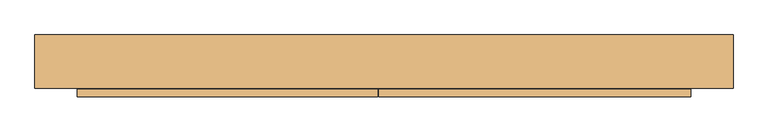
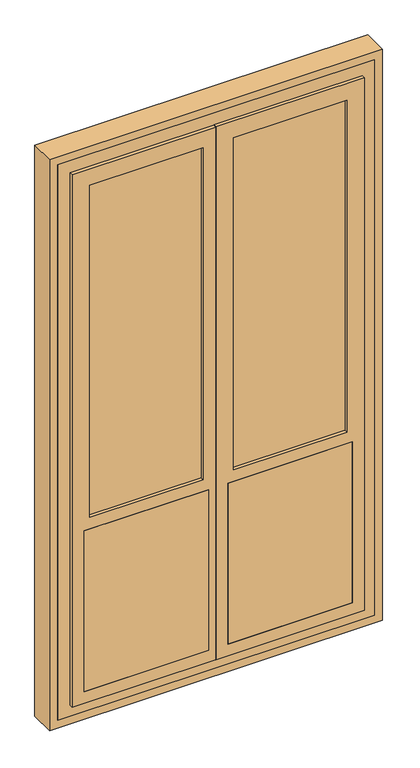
"""IFC4 building model written with IfcOpenShell, lengths in millimetres: door geometry, Балконная дверь 2-Распашная - Сдвоенные переплеты с остеклением - 11214-2003 : БД СП Д1 2175-1174-94 ГОСТ 11214-2003."""

from ifc_helpers import new_model, si_unit, frame, origin, place, context, project, spatial, polyline, outline, extrude, faceted_brep, source, transform, mapped, element, save


def door_428ffb38(model_context):
    return source(origin(), model_context, "Body", "SolidModel", [
        faceted_brep([(587.0, 305.0, 130.0), (587.0, 211.0, 130.0), (-587.0, 211.0, 130.0), (-587.0, 305.0, 130.0), (587.0, 211.0, 2305.0), (587.0, 305.0, 2305.0), (-587.0, 211.0, 2305.0), (534.0, 211.0, 2252.0), (534.0, 211.0, 183.0), (-534.0, 211.0, 183.0), (-534.0, 211.0, 2252.0), (-587.0, 305.0, 2305.0), (-506.0, 305.0, 2224.0), (-506.0, 305.0, 185.7205953), (506.0, 305.0, 185.7205953), (506.0, 305.0, 2224.0), (-506.0, 285.0, 2224.0), (-506.0, 285.0, 193.0), (506.0, 285.0, 193.0), (506.0, 285.0, 2224.0), (534.0, 255.0, 2252.0), (534.0, 255.0, 183.0), (-534.0, 255.0, 183.0), (-534.0, 255.0, 2252.0), (524.0, 255.0, 2242.0), (524.0, 255.0, 193.0), (-524.0, 255.0, 193.0), (-524.0, 255.0, 2242.0), (524.0, 285.0, 2242.0), (524.0, 285.0, 193.0), (-524.0, 285.0, 193.0), (-524.0, 285.0, 2242.0)], [[[0, 1, 2, 3]], [[4, 1, 0, 5]], [[2, 1, 4, 6], [7, 8, 9, 10]], [[2, 6, 11, 3]], [[0, 3, 11, 5], [12, 13, 14, 15]], [[12, 16, 17, 13]], [[14, 13, 17, 18]], [[19, 15, 14, 18]], [[7, 20, 21, 8]], [[9, 8, 21, 22]], [[22, 23, 10, 9]], [[20, 23, 22, 21], [24, 25, 26, 27]], [[24, 28, 29, 25]], [[26, 25, 29, 18, 17, 30]], [[31, 27, 26, 30]], [[28, 31, 30, 17, 16, 19, 18, 29]], [[5, 11, 6, 4]], [[7, 10, 23, 20]], [[24, 27, 31, 28]], [[12, 15, 19, 16]]]),
        extrude(outline(polyline([(100.0, -617.0), (100.0, 617.0), (2335.0, 617.0), (2335.0, -617.0), (100.0, -617.0)]), holes=[polyline([(2305.0, -587.0), (2305.0, 587.0), (130.0, 587.0), (130.0, -587.0), (2305.0, -587.0)])]), frame((0.0, 211.0, 0.0), z_axis=(0.0, 1.0, 0.0), x_axis=(0.0, 0.0, 1.0)), (0.0, 0.0, 1.0), 94.0),
        faceted_brep([(-522.0, 253.0, 2240.0), (-522.0, 282.0, 2240.0), (-522.0, 282.0, 195.0), (-522.0, 253.0, 195.0), (9.0, 282.0, 2240.0), (9.0, 282.0, 195.0), (-36.0, 282.0, 850.0), (-497.0, 282.0, 850.0), (-497.0, 282.0, 220.0), (-36.0, 282.0, 220.0), (-56.0, 282.0, 2195.0), (-477.0, 282.0, 2195.0), (-477.0, 282.0, 895.0), (-56.0, 282.0, 895.0), (-1.0, 255.0, 195.0), (-1.0, 253.0, 195.0), (9.0, 255.0, 195.0), (-532.0, 253.0, 2250.0), (-1.0, 253.0, 2250.0), (-1.0, 253.0, 2240.0), (-1.0, 253.0, 185.0), (-532.0, 253.0, 185.0), (-477.0, 269.0, 895.0), (-56.0, 269.0, 895.0), (-36.0, 269.0, 2215.0), (-497.0, 269.0, 2215.0), (-497.0, 269.0, 875.0), (-36.0, 269.0, 875.0), (-477.0, 269.0, 2195.0), (-56.0, 269.0, 2195.0), (-36.0, 266.0, 850.0), (-497.0, 266.0, 850.0), (-497.0, 266.0, 220.0), (-36.0, 266.0, 220.0), (9.0, 255.0, 2240.0), (-56.0, 266.0, 830.0), (-477.0, 266.0, 830.0), (-477.0, 266.0, 240.0), (-56.0, 266.0, 240.0), (-56.0, 240.0, 830.0), (-477.0, 240.0, 830.0), (-477.0, 240.0, 240.0), (-56.0, 240.0, 240.0), (-1.0, 240.0, 2250.0), (-532.0, 240.0, 2250.0), (-532.0, 240.0, 185.0), (-1.0, 240.0, 185.0), (-477.0, 240.0, 2195.0), (-56.0, 240.0, 2195.0), (-56.0, 240.0, 895.0), (-477.0, 240.0, 895.0), (-56.0, 266.0, 2195.0), (-56.0, 266.0, 895.0), (-477.0, 266.0, 895.0), (-477.0, 266.0, 2195.0), (-1.0, 255.0, 2240.0), (-497.0, 266.0, 2215.0), (-36.0, 266.0, 2215.0), (-36.0, 266.0, 875.0), (-497.0, 266.0, 875.0)], [[[0, 1, 2, 3]], [[2, 1, 4, 5], [6, 7, 8, 9], [10, 11, 12, 13]], [[14, 15, 3, 2, 5, 16]], [[17, 18, 19, 0, 3, 15, 20, 21]], [[22, 23, 13, 12]], [[24, 25, 26, 27], [28, 29, 23, 22]], [[29, 10, 13, 23]], [[11, 28, 22, 12]], [[7, 6, 30, 31]], [[31, 32, 8, 7]], [[32, 33, 9, 8]], [[9, 33, 30, 6]], [[4, 34, 16, 5]], [[33, 32, 31, 30], [35, 36, 37, 38]], [[36, 35, 39, 40]], [[41, 37, 36, 40]], [[38, 37, 41, 42]], [[38, 42, 39, 35]], [[43, 44, 45, 46], [40, 39, 42, 41], [47, 48, 49, 50]], [[48, 51, 52, 49]], [[50, 49, 52, 53]], [[54, 47, 50, 53]], [[17, 21, 45, 44]], [[46, 45, 21, 20]], [[55, 19, 18, 43, 46, 20, 15, 14]], [[56, 57, 58, 59], [51, 54, 53, 52]], [[57, 24, 27, 58]], [[58, 27, 26, 59]], [[25, 56, 59, 26]], [[34, 55, 14, 16]], [[55, 34, 4, 1, 0, 19]], [[10, 29, 28, 11]], [[18, 17, 44, 43]], [[48, 47, 54, 51]], [[57, 56, 25, 24]]]),
        faceted_brep([(-532.0, 238.0, 2250.0), (-1.0, 238.0, 2250.0), (-1.0, 238.0, 185.0), (-532.0, 238.0, 185.0), (-56.0, 238.0, 240.0), (-56.0, 238.0, 830.0), (-477.0, 238.0, 830.0), (-477.0, 238.0, 240.0), (-56.0, 238.0, 2195.0), (-477.0, 238.0, 2195.0), (-477.0, 238.0, 895.0), (-56.0, 238.0, 895.0), (-56.0, 212.0, 240.0), (-56.0, 212.0, 830.0), (-56.0, 212.0, 2195.0), (-56.0, 212.0, 895.0), (-477.0, 212.0, 895.0), (-497.0, 212.0, 220.0), (-36.0, 212.0, 220.0), (-36.0, 212.0, 850.0), (-497.0, 212.0, 850.0), (-477.0, 212.0, 240.0), (-477.0, 212.0, 830.0), (-36.0, 212.0, 2215.0), (-497.0, 212.0, 2215.0), (-497.0, 212.0, 875.0), (-36.0, 212.0, 875.0), (-477.0, 212.0, 2195.0), (-1.0, 211.0, 2250.0), (-1.0, 211.0, 185.0), (-11.0, 211.0, 185.0), (-11.0, 209.0, 185.0), (-532.0, 209.0, 185.0), (-532.0, 209.0, 2250.0), (-532.0, 209.0, 850.0), (-532.0, 209.0, 875.0), (-532.0, 209.0, 895.0), (-11.0, 211.0, 2250.0), (-11.0, 211.0, 875.0), (-11.0, 211.0, 850.0), (-542.0, 209.0, 175.0), (-542.0, 209.0, 2260.0), (-11.0, 209.0, 2260.0), (-11.0, 209.0, 2250.0), (-11.0, 209.0, 175.0), (-542.0, 196.0, 2260.0), (-542.0, 196.0, 175.0), (-11.0, 196.0, 2260.0), (-11.0, 196.0, 175.0), (-497.0, 196.0, 220.0), (-497.0, 196.0, 850.0), (-36.0, 196.0, 850.0), (-36.0, 196.0, 220.0), (-477.0, 196.0, 2195.0), (-56.0, 196.0, 2195.0), (-56.0, 196.0, 895.0), (-477.0, 196.0, 895.0), (-497.0, 209.0, 2215.0), (-497.0, 209.0, 875.0), (-36.0, 209.0, 875.0), (-36.0, 209.0, 2215.0), (-56.0, 209.0, 2195.0), (-56.0, 209.0, 895.0), (-477.0, 209.0, 895.0), (-477.0, 209.0, 2195.0)], [[[0, 1, 2, 3], [4, 5, 6, 7], [8, 9, 10, 11]], [[4, 12, 13, 5]], [[14, 8, 11, 15]], [[11, 10, 16, 15]], [[17, 18, 19, 20], [12, 21, 22, 13]], [[23, 24, 25, 26], [14, 15, 16, 27]], [[21, 12, 4, 7]], [[6, 5, 13, 22]], [[2, 1, 28, 29]], [[3, 2, 29, 30, 31, 32]], [[33, 0, 3, 32, 34, 35, 36]], [[21, 7, 6, 22]], [[9, 27, 16, 10]], [[29, 28, 37, 38, 39, 30]], [[40, 41, 42, 43, 33, 36, 35, 34, 32, 31, 44]], [[45, 41, 40, 46]], [[44, 31, 30, 39, 38, 37, 43, 42, 47, 48]], [[46, 40, 44, 48]], [[45, 46, 48, 47], [49, 50, 51, 52], [53, 54, 55, 56]], [[25, 24, 57, 58]], [[49, 17, 20, 50]], [[51, 50, 20, 19]], [[19, 18, 52, 51]], [[59, 60, 23, 26]], [[18, 17, 49, 52]], [[54, 61, 62, 55]], [[62, 63, 56, 55]], [[64, 53, 56, 63]], [[57, 60, 59, 58], [61, 64, 63, 62]], [[58, 59, 26, 25]], [[8, 14, 27, 9]], [[1, 0, 33, 43, 37, 28]], [[41, 45, 47, 42]], [[54, 53, 64, 61]], [[60, 57, 24, 23]]]),
        extrude(outline(polyline([(-36.0, 269.0), (-36.0, 266.0), (-497.0, 266.0), (-497.0, 269.0), (-36.0, 269.0)])), frame((0.0, 0.0, 875.0), z_axis=(0.0, 0.0, 1.0), x_axis=(1.0, 0.0, 0.0)), (0.0, 0.0, 1.0), 1340.0),
        extrude(outline(polyline([(497.0, 269.0), (497.0, 266.0), (36.0, 266.0), (36.0, 269.0), (497.0, 269.0)])), frame((0.0, 0.0, 875.0), z_axis=(0.0, 0.0, 1.0), x_axis=(1.0, 0.0, 0.0)), (0.0, 0.0, 1.0), 1340.0),
        extrude(outline(polyline([(497.0, 212.0), (497.0, 209.0), (36.0, 209.0), (36.0, 212.0), (497.0, 212.0)])), frame((0.0, 0.0, 875.0), z_axis=(0.0, 0.0, 1.0), x_axis=(1.0, 0.0, 0.0)), (0.0, 0.0, 1.0), 1340.0),
        extrude(outline(polyline([(-497.0, 212.0), (-36.0, 212.0), (-36.0, 209.0), (-497.0, 209.0), (-497.0, 212.0)])), frame((0.0, 0.0, 875.0), z_axis=(0.0, 0.0, 1.0), x_axis=(1.0, 0.0, 0.0)), (0.0, 0.0, 1.0), 1340.0),
        faceted_brep([(1.0, 238.0, 2250.0), (532.0, 238.0, 2250.0), (532.0, 238.0, 185.0), (1.0, 238.0, 185.0), (477.0, 238.0, 240.0), (477.0, 238.0, 830.0), (56.0, 238.0, 830.0), (56.0, 238.0, 240.0), (477.0, 238.0, 2195.0), (56.0, 238.0, 2195.0), (56.0, 238.0, 895.0), (477.0, 238.0, 895.0), (477.0, 212.0, 240.0), (477.0, 212.0, 830.0), (477.0, 212.0, 2195.0), (477.0, 212.0, 895.0), (56.0, 212.0, 895.0), (36.0, 212.0, 220.0), (497.0, 212.0, 220.0), (497.0, 212.0, 850.0), (36.0, 212.0, 850.0), (56.0, 212.0, 240.0), (56.0, 212.0, 830.0), (497.0, 212.0, 2215.0), (36.0, 212.0, 2215.0), (36.0, 212.0, 875.0), (497.0, 212.0, 875.0), (56.0, 212.0, 2195.0), (532.0, 209.0, 2250.0), (532.0, 209.0, 895.0), (532.0, 209.0, 875.0), (532.0, 209.0, 850.0), (532.0, 209.0, 185.0), (1.0, 209.0, 185.0), (1.0, 209.0, 2250.0), (1.0, 209.0, 850.0), (1.0, 209.0, 875.0), (1.0, 209.0, 895.0), (-9.0, 209.0, 2260.0), (542.0, 209.0, 2260.0), (542.0, 209.0, 175.0), (-9.0, 209.0, 175.0), (542.0, 196.0, 2260.0), (542.0, 196.0, 175.0), (-9.0, 196.0, 175.0), (-9.0, 196.0, 2260.0), (36.0, 196.0, 220.0), (36.0, 196.0, 850.0), (497.0, 196.0, 850.0), (497.0, 196.0, 220.0), (56.0, 196.0, 2195.0), (477.0, 196.0, 2195.0), (477.0, 196.0, 895.0), (56.0, 196.0, 895.0), (36.0, 209.0, 2215.0), (36.0, 209.0, 875.0), (497.0, 209.0, 875.0), (497.0, 209.0, 2215.0), (477.0, 209.0, 2195.0), (477.0, 209.0, 895.0), (56.0, 209.0, 895.0), (56.0, 209.0, 2195.0)], [[[0, 1, 2, 3], [4, 5, 6, 7], [8, 9, 10, 11]], [[4, 12, 13, 5]], [[14, 8, 11, 15]], [[11, 10, 16, 15]], [[17, 18, 19, 20], [12, 21, 22, 13]], [[23, 24, 25, 26], [14, 15, 16, 27]], [[21, 12, 4, 7]], [[6, 5, 13, 22]], [[2, 1, 28, 29, 30, 31, 32]], [[32, 33, 3, 2]], [[34, 0, 3, 33, 35, 36, 37]], [[21, 7, 6, 22]], [[9, 27, 16, 10]], [[38, 39, 40, 41], [28, 34, 37, 36, 35, 33, 32, 31, 30, 29]], [[39, 42, 43, 40]], [[43, 44, 41, 40]], [[45, 38, 41, 44]], [[42, 45, 44, 43], [46, 47, 48, 49], [50, 51, 52, 53]], [[25, 24, 54, 55]], [[46, 17, 20, 47]], [[48, 47, 20, 19]], [[19, 18, 49, 48]], [[56, 57, 23, 26]], [[18, 17, 46, 49]], [[51, 58, 59, 52]], [[59, 60, 53, 52]], [[61, 50, 53, 60]], [[54, 57, 56, 55], [58, 61, 60, 59]], [[55, 56, 26, 25]], [[8, 14, 27, 9]], [[1, 0, 34, 28]], [[39, 38, 45, 42]], [[51, 50, 61, 58]], [[57, 54, 24, 23]]]),
        faceted_brep([(11.0, 282.0, 2240.0), (522.0, 282.0, 2240.0), (522.0, 282.0, 195.0), (11.0, 282.0, 195.0), (497.0, 282.0, 220.0), (497.0, 282.0, 850.0), (36.0, 282.0, 850.0), (36.0, 282.0, 220.0), (477.0, 282.0, 2195.0), (56.0, 282.0, 2195.0), (56.0, 282.0, 895.0), (477.0, 282.0, 895.0), (477.0, 269.0, 2195.0), (477.0, 269.0, 895.0), (56.0, 269.0, 895.0), (497.0, 269.0, 2215.0), (36.0, 269.0, 2215.0), (36.0, 269.0, 875.0), (497.0, 269.0, 875.0), (56.0, 269.0, 2195.0), (522.0, 253.0, 2240.0), (522.0, 253.0, 895.0), (522.0, 253.0, 830.0), (522.0, 253.0, 195.0), (11.0, 253.0, 195.0), (11.0, 253.0, 2240.0), (11.0, 253.0, 830.0), (11.0, 253.0, 895.0), (497.0, 266.0, 875.0), (497.0, 266.0, 2215.0), (497.0, 266.0, 220.0), (497.0, 266.0, 850.0), (36.0, 266.0, 850.0), (36.0, 266.0, 2215.0), (36.0, 266.0, 875.0), (36.0, 266.0, 220.0), (1.0, 253.0, 2250.0), (532.0, 253.0, 2250.0), (532.0, 253.0, 185.0), (1.0, 253.0, 185.0), (532.0, 240.0, 2250.0), (532.0, 240.0, 185.0), (1.0, 240.0, 185.0), (1.0, 240.0, 2250.0), (56.0, 240.0, 240.0), (56.0, 240.0, 830.0), (477.0, 240.0, 830.0), (477.0, 240.0, 240.0), (56.0, 240.0, 2195.0), (477.0, 240.0, 2195.0), (477.0, 240.0, 895.0), (56.0, 240.0, 895.0), (56.0, 266.0, 240.0), (56.0, 266.0, 830.0), (56.0, 266.0, 2195.0), (56.0, 266.0, 895.0), (477.0, 266.0, 830.0), (477.0, 266.0, 240.0), (477.0, 266.0, 2195.0), (477.0, 266.0, 895.0)], [[[0, 1, 2, 3], [4, 5, 6, 7], [8, 9, 10, 11]], [[12, 8, 11, 13]], [[11, 10, 14, 13]], [[15, 16, 17, 18], [12, 13, 14, 19]], [[2, 1, 20, 21, 22, 23]], [[23, 24, 3, 2]], [[25, 0, 3, 24, 26, 27]], [[28, 29, 15, 18]], [[4, 30, 31, 5]], [[31, 32, 6, 5]], [[17, 16, 33, 34]], [[32, 35, 7, 6]], [[35, 30, 4, 7]], [[9, 19, 14, 10]], [[36, 37, 38, 39], [20, 25, 27, 26, 24, 23, 22, 21]], [[37, 40, 41, 38]], [[41, 42, 39, 38]], [[43, 36, 39, 42]], [[40, 43, 42, 41], [44, 45, 46, 47], [48, 49, 50, 51]], [[44, 52, 53, 45]], [[54, 48, 51, 55]], [[46, 45, 53, 56]], [[57, 47, 46, 56]], [[49, 58, 59, 50]], [[57, 52, 44, 47]], [[51, 50, 59, 55]], [[30, 35, 32, 31], [57, 56, 53, 52]], [[33, 29, 28, 34], [58, 54, 55, 59]], [[34, 28, 18, 17]], [[8, 12, 19, 9]], [[1, 0, 25, 20]], [[37, 36, 43, 40]], [[49, 48, 54, 58]], [[29, 33, 16, 15]]]),
        extrude(outline(polyline([(-36.0, 282.0), (-36.0, 266.0), (-497.0, 266.0), (-497.0, 282.0), (-36.0, 282.0)])), frame((0.0, 0.0, 220.0), z_axis=(0.0, 0.0, 1.0), x_axis=(1.0, 0.0, 0.0)), (0.0, 0.0, 1.0), 630.0),
        extrude(outline(polyline([(497.0, 282.0), (497.0, 266.0), (36.0, 266.0), (36.0, 282.0), (497.0, 282.0)])), frame((0.0, 0.0, 220.0), z_axis=(0.0, 0.0, 1.0), x_axis=(1.0, 0.0, 0.0)), (0.0, 0.0, 1.0), 630.0),
        extrude(outline(polyline([(497.0, 212.0), (497.0, 196.0), (36.0, 196.0), (36.0, 212.0), (497.0, 212.0)])), frame((0.0, 0.0, 220.0), z_axis=(0.0, 0.0, 1.0), x_axis=(1.0, 0.0, 0.0)), (0.0, 0.0, 1.0), 630.0),
        extrude(outline(polyline([(-497.0, 212.0), (-36.0, 212.0), (-36.0, 196.0), (-497.0, 196.0), (-497.0, 212.0)])), frame((0.0, 0.0, 220.0), z_axis=(0.0, 0.0, 1.0), x_axis=(1.0, 0.0, 0.0)), (0.0, 0.0, 1.0), 630.0),
    ])


if __name__ == "__main__":
    model = new_model("IFC4")
    model_context = context("Model", 3, world=origin())
    ifc_project = project(units=[si_unit("LENGTHUNIT", "METRE", prefix="MILLI")], contexts=[model_context])
    site = spatial("IfcSite", under=ifc_project)
    building = spatial("IfcBuilding", under=site)
    placement = place(None, origin())
    door_shape = door_428ffb38(model_context)
    element("IfcDoor", 1, ObjectType="Балконная дверь 2-Распашная - Сдвоенные переплеты с остеклением - 11214-2003 : БД СП Д1 2175-1174-94 ГОСТ 11214-2003", at=placement, inside=building, context=model_context, shape_type="MappedRepresentation", body=[
        mapped(door_shape, transform((0.0, 0.0, 0.0), x_axis=(1.0, 0.0, 0.0), y_axis=(0.0, 1.0, 0.0), z_axis=(0.0, 0.0, 1.0))),
    ])
    save(model, "model.ifc")
